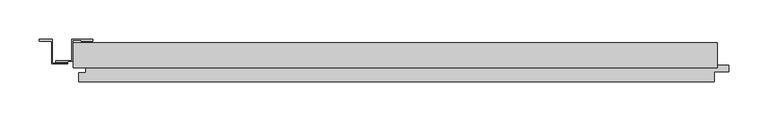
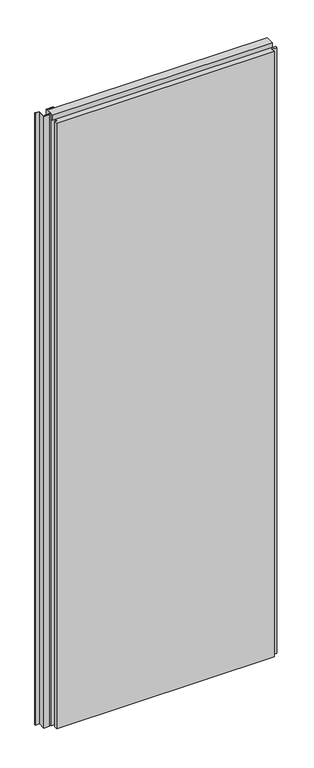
"""IFC4 building model written with IfcOpenShell, lengths in millimetres: plate geometry, Trimo_Qbiss Screen_Normal Panel-VERTICAL : HR - FB-F."""

import ifcopenshell
import ifcopenshell.guid

model = None  # the IFC model being written
_history = None  # IfcOwnerHistory: only IFC2X3 demands one
_inside = {}  # id of a spatial element -> (the spatial element, [elements in it])
_under = {}  # id of a project, library or spatial element -> (it, [spatial elements below it])
_declared = {}  # id of a project -> (the project, [libraries it declares])
_typed = {}  # id of a type object -> (the type object, [elements of that type])
_made_of = {}  # id of a material, layer set ... -> (it, [elements and type objects made of it])


def new_model(schema):
    """Start an empty IFC model of exactly this schema.

    Asked for "IFC4X3", IfcOpenShell would pick the latest addendum, in which some entities
    have other attributes; the version numbers below select the first issue.
    IFC2X3 requires an IfcOwnerHistory on every rooted entity: one is made here for all.
    """
    global model, _history
    if schema == "IFC4X3":
        model = ifcopenshell.file(schema_version=(4, 3, 0, 0))
    else:
        model = ifcopenshell.file(schema=schema)
    _inside.clear()
    _under.clear()
    _declared.clear()
    _typed.clear()
    _made_of.clear()
    _history = None
    if model.schema == "IFC2X3":
        org = make("IfcOrganization", Name="unknown")
        user = make(
            "IfcPersonAndOrganization",
            ThePerson=make("IfcPerson", FamilyName="unknown"),
            TheOrganization=org,
        )
        app = make(
            "IfcApplication",
            ApplicationDeveloper=org,
            Version="unknown",
            ApplicationFullName="unknown",
            ApplicationIdentifier="unknown",
        )
        _history = make(
            "IfcOwnerHistory",
            OwningUser=user,
            OwningApplication=app,
            ChangeAction="ADDED",
            CreationDate=0,
        )
    return model


def make(cls, **values):
    """One entity of the class cls with the attributes given. An attribute that is None is left unset."""
    return model.create_entity(
        cls, **{name: value for name, value in values.items() if value is not None}
    )


def rooted(cls, **values):
    """An entity with a GlobalId (a new one), such as an element, a storey or a relation."""
    return make(cls, GlobalId=ifcopenshell.guid.new(), OwnerHistory=_history, **values)


def si_unit(unit_type, name, prefix=None):
    """IfcSIUnit, for example si_unit("LENGTHUNIT", "METRE", prefix="MILLI")."""
    return make("IfcSIUnit", UnitType=unit_type, Prefix=prefix, Name=name)


def assignment(units):
    """IfcUnitAssignment: the units of a project."""
    return None if units is None else make("IfcUnitAssignment", Units=units)


def point(xyz):
    """IfcCartesianPoint."""
    return None if xyz is None else make("IfcCartesianPoint", Coordinates=xyz)


def direction(xyz):
    """IfcDirection."""
    return None if xyz is None else make("IfcDirection", DirectionRatios=xyz)


def frame(location, z_axis=None, x_axis=None):
    """IfcAxis2Placement3D, a coordinate frame: its origin and axes. An axis left out is left unset."""
    return make(
        "IfcAxis2Placement3D",
        Location=point(location),
        Axis=direction(z_axis),
        RefDirection=direction(x_axis),
    )


def origin():
    """The frame at (0, 0, 0) with its axes left unset."""
    return frame((0.0, 0.0, 0.0))


def place(relative_to, where):
    """IfcLocalPlacement: puts the frame where relative to a parent placement (None: the world)."""
    return make(
        "IfcLocalPlacement", PlacementRelTo=relative_to, RelativePlacement=where
    )


def context(
    kind, dimensions, precision=None, world=None, true_north=None, identifier=None
):
    """IfcGeometricRepresentationContext, for example the 3D "Model" context."""
    return make(
        "IfcGeometricRepresentationContext",
        ContextIdentifier=identifier,
        ContextType=kind,
        CoordinateSpaceDimension=dimensions,
        Precision=precision,
        WorldCoordinateSystem=world,
        TrueNorth=true_north,
    )


def project(units=None, contexts=None):
    """IfcProject with its units and contexts."""
    return rooted(
        "IfcProject",
        Name="project",
        RepresentationContexts=contexts,
        UnitsInContext=assignment(units),
    )


def spatial(cls, under=None, at=None, **own):
    """A site, building, storey or space (cls), placed at a placement, below another one or the project."""
    s = rooted(cls, ObjectPlacement=at, **own)
    if under is not None:
        _under.setdefault(under.id(), (under, []))[1].append(s)
    return s


def polyline(points):
    """IfcPolyline through the points."""
    return make("IfcPolyline", Points=[point(p) for p in points])


def outline(outer, holes=None, kind="AREA"):
    """IfcArbitraryClosedProfileDef: a profile drawn as a closed curve; with holes, ...WithVoids."""
    if holes is None:
        return make("IfcArbitraryClosedProfileDef", ProfileType=kind, OuterCurve=outer)
    return make(
        "IfcArbitraryProfileDefWithVoids",
        ProfileType=kind,
        OuterCurve=outer,
        InnerCurves=holes,
    )


def extrude(swept, where, along, depth):
    """IfcExtrudedAreaSolid: the profile swept, set in the frame where, extruded along a direction by depth."""
    return make(
        "IfcExtrudedAreaSolid",
        SweptArea=swept,
        Position=where,
        ExtrudedDirection=direction(along),
        Depth=depth,
    )


def shape(context_of_items, identifier, shape_type, items):
    """IfcShapeRepresentation: the items that make up one representation, for example the "Body"."""
    return make(
        "IfcShapeRepresentation",
        ContextOfItems=context_of_items,
        RepresentationIdentifier=identifier,
        RepresentationType=shape_type,
        Items=items,
    )


def source(mapping_origin, context_of_items, identifier, shape_type, items):
    """IfcRepresentationMap: a shape defined once, which mapped items show again and again."""
    return make(
        "IfcRepresentationMap",
        MappingOrigin=mapping_origin,
        MappedRepresentation=shape(context_of_items, identifier, shape_type, items),
    )


def transform(
    local_origin,
    x_axis=None,
    y_axis=None,
    z_axis=None,
    scale=None,
    scale2=None,
    scale3=None,
    uniform=True,
):
    """IfcCartesianTransformationOperator3D, or its non-uniform kind. x_axis, y_axis, z_axis: its Axis1, 2, 3."""
    if uniform:
        return make(
            "IfcCartesianTransformationOperator3D",
            Axis1=direction(x_axis),
            Axis2=direction(y_axis),
            LocalOrigin=point(local_origin),
            Scale=scale,
            Axis3=direction(z_axis),
        )
    return make(
        "IfcCartesianTransformationOperator3DnonUniform",
        Axis1=direction(x_axis),
        Axis2=direction(y_axis),
        LocalOrigin=point(local_origin),
        Scale=scale,
        Axis3=direction(z_axis),
        Scale2=scale2,
        Scale3=scale3,
    )


def mapped(mapping_source, mapping_target):
    """IfcMappedItem: shows the shape of a source again, moved by a transform."""
    return make(
        "IfcMappedItem", MappingSource=mapping_source, MappingTarget=mapping_target
    )


def made_of(thing, what):
    """Note that an element or type object is made of a material, layer set ...; save() writes the relation."""
    if what is not None:
        _made_of.setdefault(what.id(), (what, []))[1].append(thing)
    return thing


def element(
    cls,
    number,
    at=None,
    inside=None,
    cuts=None,
    type_object=None,
    material=None,
    context=None,
    identifier="Body",
    shape_type=None,
    held_by="IfcProductDefinitionShape",
    body=None,
    shapes=None,
    **own,
):
    """One element of the class cls, such as IfcWall. Its Tag is "e" and its number.

    at: its placement. inside: the storey or other place that contains it. cuts: it is an
    opening in that element (IfcRelVoidsElement). A single representation is given by context,
    identifier, shape_type and body (its items); several are given by shapes. held_by: the class
    of the entity that holds the representations. save() writes the other relations.
    """
    e = rooted(cls, Tag="e%d" % number, ObjectPlacement=at, **own)
    if body is not None:
        shapes = [shape(context, identifier, shape_type, body)]
    if shapes is not None:
        e.Representation = make(held_by, Representations=shapes)
    if inside is not None:
        _inside.setdefault(inside.id(), (inside, []))[1].append(e)
    if cuts is not None:
        rooted(
            "IfcRelVoidsElement", RelatingBuildingElement=cuts, RelatedOpeningElement=e
        )
    if type_object is not None:
        _typed.setdefault(type_object.id(), (type_object, []))[1].append(e)
    return made_of(e, material)


def aggregate(whole, parts):
    """IfcRelAggregates: a whole, such as a stair, and the parts it consists of."""
    return rooted("IfcRelAggregates", RelatingObject=whole, RelatedObjects=parts)


def save(model, path):
    """Write the relations noted so far, then the file.

    IfcRelAggregates (storeys below a building ...), IfcRelContainedInSpatialStructure (elements
    in a storey), IfcRelDefinesByType, IfcRelAssociatesMaterial and IfcRelDeclares: one each for
    every whole, place, type object, material and project.
    """
    for whole, parts in _under.values():
        aggregate(whole, parts)
    for where, things in _inside.values():
        rooted(
            "IfcRelContainedInSpatialStructure",
            RelatedElements=things,
            RelatingStructure=where,
        )
    for kind, things in _typed.values():
        rooted("IfcRelDefinesByType", RelatedObjects=things, RelatingType=kind)
    for what, things in _made_of.values():
        rooted("IfcRelAssociatesMaterial", RelatedObjects=things, RelatingMaterial=what)
    for by, libraries in _declared.values():
        rooted("IfcRelDeclares", RelatingContext=by, RelatedDefinitions=libraries)
    model.write(path)


def plate_998425f1(model_context):
    return source(origin(), model_context, "Body", "SweptSolid", [
        extrude(outline(polyline([(-361.0, 127.6), (-376.0, 127.6), (-376.0, 128.4), (-361.8, 128.4), (-361.8, 129.2), (-387.0, 129.2), (-387.0, 102.4), (-407.2, 102.4), (-407.2, 101.6), (-393.0, 101.6), (-393.0, 100.8), (-408.0, 100.8), (-408.0, 103.2), (-387.8, 103.2), (-387.8, 130.0), (-361.0, 130.0), (-361.0, 127.6)])), frame((0.0, 0.0, 12.5), z_axis=(0.0, 0.0, 1.0), x_axis=(1.0, 0.0, 0.0)), (0.0, 0.0, 1.0), 2400.0),
        extrude(outline(polyline([(-393.0, 100.0), (-393.0, 99.2), (-413.6, 99.2), (-413.6, 129.2), (-428.2, 129.2), (-428.2, 128.4), (-414.0, 128.4), (-414.0, 127.6), (-429.0, 127.6), (-429.0, 130.0), (-412.8, 130.0), (-412.8, 100.0), (-393.0, 100.0)])), frame((0.0, 0.0, 12.5), z_axis=(0.0, 0.0, 1.0), x_axis=(1.0, 0.0, 0.0)), (0.0, 0.0, 1.0), 2400.0),
        extrude(outline(polyline([(-386.0, 93.9), (-386.0, 126.0), (431.0, 126.0), (431.0, 93.9), (-386.0, 93.9)])), frame((0.0, 0.0, 2390.5), z_axis=(0.0, 0.0, 1.0), x_axis=(1.0, 0.0, 0.0)), (0.0, 0.0, 1.0), 19.0),
        extrude(outline(polyline([(427.0, 97.0), (445.5, 97.0), (445.5, 89.0), (427.0, 89.0), (427.0, 76.0), (-379.0, 76.0), (-379.0, 88.0), (-370.5, 88.0), (-370.5, 98.0), (-386.0, 98.0), (-386.0, 126.0), (427.0, 126.0), (427.0, 97.0)])), frame((0.0, 0.0, 12.5), z_axis=(0.0, 0.0, 1.0), x_axis=(1.0, 0.0, 0.0)), (0.0, 0.0, 1.0), 2375.0),
    ])


if __name__ == "__main__":
    model = new_model("IFC4")
    model_context = context("Model", 3, world=origin())
    ifc_project = project(units=[si_unit("LENGTHUNIT", "METRE", prefix="MILLI")], contexts=[model_context])
    site = spatial("IfcSite", under=ifc_project)
    building = spatial("IfcBuilding", under=site)
    placement = place(None, origin())
    plate_shape = plate_998425f1(model_context)
    element("IfcPlate", 1, ObjectType="Trimo_Qbiss Screen_Normal Panel-VERTICAL : HR - FB-F", at=placement, inside=building, context=model_context, shape_type="MappedRepresentation", body=[
        mapped(plate_shape, transform((0.0, 0.0, 0.0), x_axis=(1.0, 0.0, 0.0), y_axis=(0.0, 1.0, 0.0), z_axis=(0.0, 0.0, 1.0))),
    ])
    save(model, "model.ifc")
